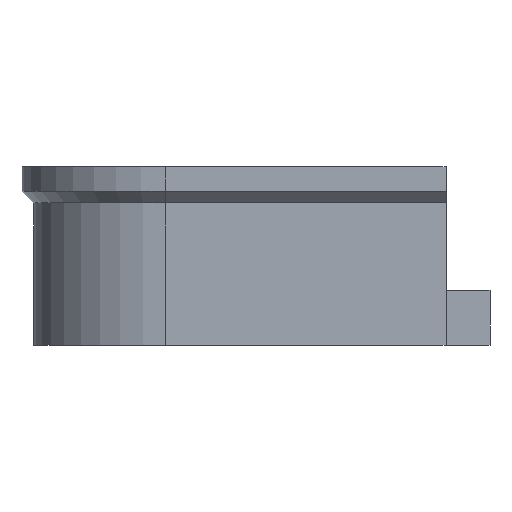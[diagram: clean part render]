
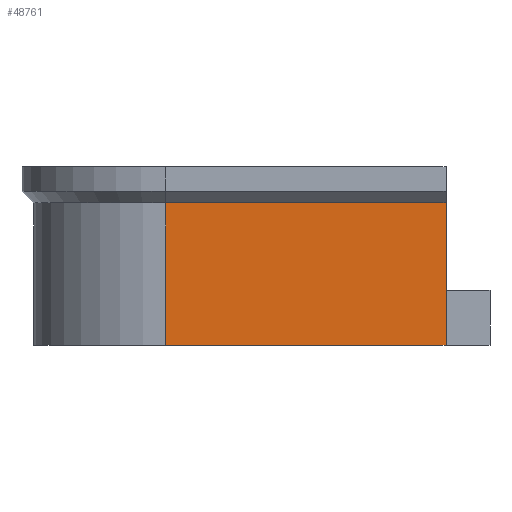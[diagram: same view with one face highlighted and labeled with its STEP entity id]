
A CAD part, left-side view. The second image highlights one B-rep face of the part: STEP entity #48761.
In plain terms, the highlighted planar face has unit normal (-1, 0, 0).
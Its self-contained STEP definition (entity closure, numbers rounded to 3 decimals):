
#32 = PLANE('',#33);
#33 = AXIS2_PLACEMENT_3D('',#34,#35,#36);
#34 = CARTESIAN_POINT('',(-200.,101.,-1.));
#35 = DIRECTION('',(-0.,1.,0.));
#36 = DIRECTION('',(0.,0.,1.));
#839 = PLANE('',#840);
#840 = AXIS2_PLACEMENT_3D('',#841,#842,#843);
#841 = CARTESIAN_POINT('',(0.,-2.673,0.));
#842 = DIRECTION('',(0.,0.,1.));
#843 = DIRECTION('',(1.,0.,-0.));
#936 = VERTEX_POINT('',#937);
#937 = CARTESIAN_POINT('',(-192.,101.,0.));
#958 = EDGE_CURVE('',#959,#936,#961,.T.);
#959 = VERTEX_POINT('',#960);
#960 = CARTESIAN_POINT('',(-192.,101.,25.9));
#961 = SURFACE_CURVE('',#962,(#966,#973),.PCURVE_S1.);
#962 = LINE('',#963,#964);
#963 = CARTESIAN_POINT('',(-192.,101.,-0.5));
#964 = VECTOR('',#965,1.);
#965 = DIRECTION('',(-0.,0.,-1.));
#966 = PCURVE('',#32,#967);
#967 = DEFINITIONAL_REPRESENTATION('',(#968),#972);
#968 = LINE('',#969,#970);
#969 = CARTESIAN_POINT('',(0.5,8.));
#970 = VECTOR('',#971,1.);
#971 = DIRECTION('',(-1.,0.));
#972 = ( GEOMETRIC_REPRESENTATION_CONTEXT(2) 
PARAMETRIC_REPRESENTATION_CONTEXT() REPRESENTATION_CONTEXT('2D SPACE',''
  ) );
#973 = PCURVE('',#974,#979);
#974 = PLANE('',#975);
#975 = AXIS2_PLACEMENT_3D('',#976,#977,#978);
#976 = CARTESIAN_POINT('',(-192.,152.,0.));
#977 = DIRECTION('',(1.,0.,-0.));
#978 = DIRECTION('',(0.,-1.,0.));
#979 = DEFINITIONAL_REPRESENTATION('',(#980),#984);
#980 = LINE('',#981,#982);
#981 = CARTESIAN_POINT('',(51.,0.5));
#982 = VECTOR('',#983,1.);
#983 = DIRECTION('',(-0.,1.));
#984 = ( GEOMETRIC_REPRESENTATION_CONTEXT(2) 
PARAMETRIC_REPRESENTATION_CONTEXT() REPRESENTATION_CONTEXT('2D SPACE',''
  ) );
#1004 = B_SPLINE_SURFACE_WITH_KNOTS('',1,1,(
    (#1005,#1006)
    ,(#1007,#1008
    )),.UNSPECIFIED.,.F.,.F.,.F.,(2,2),(2,2),(0.,330.1),(0.,1.),
  .PIECEWISE_BEZIER_KNOTS.);
#1005 = CARTESIAN_POINT('',(-192.,152.,25.9));
#1006 = CARTESIAN_POINT('',(-194.1,152.,28.));
#1007 = CARTESIAN_POINT('',(-192.,-176.,25.9));
#1008 = CARTESIAN_POINT('',(-194.1,-178.1,28.));
#1022 = VERTEX_POINT('',#1023);
#1023 = CARTESIAN_POINT('',(-192.,152.,25.9));
#1049 = EDGE_CURVE('',#1022,#959,#1050,.T.);
#1050 = SURFACE_CURVE('',#1051,(#1055,#1061),.PCURVE_S1.);
#1051 = LINE('',#1052,#1053);
#1052 = CARTESIAN_POINT('',(-192.,152.,25.9));
#1053 = VECTOR('',#1054,1.);
#1054 = DIRECTION('',(0.,-1.,0.));
#1055 = PCURVE('',#1004,#1056);
#1056 = DEFINITIONAL_REPRESENTATION('',(#1057),#1060);
#1057 = B_SPLINE_CURVE_WITH_KNOTS('',1,(#1058,#1059),.UNSPECIFIED.,.F.,
  .F.,(2,2),(0.,328.),.PIECEWISE_BEZIER_KNOTS.);
#1058 = CARTESIAN_POINT('',(0.,0.));
#1059 = CARTESIAN_POINT('',(330.1,0.));
#1060 = ( GEOMETRIC_REPRESENTATION_CONTEXT(2) 
PARAMETRIC_REPRESENTATION_CONTEXT() REPRESENTATION_CONTEXT('2D SPACE',''
  ) );
#1061 = PCURVE('',#974,#1062);
#1062 = DEFINITIONAL_REPRESENTATION('',(#1063),#1067);
#1063 = LINE('',#1064,#1065);
#1064 = CARTESIAN_POINT('',(0.,-25.9));
#1065 = VECTOR('',#1066,1.);
#1066 = DIRECTION('',(1.,0.));
#1067 = ( GEOMETRIC_REPRESENTATION_CONTEXT(2) 
PARAMETRIC_REPRESENTATION_CONTEXT() REPRESENTATION_CONTEXT('2D SPACE',''
  ) );
#1110 = CYLINDRICAL_SURFACE('',#1111,24.);
#1111 = AXIS2_PLACEMENT_3D('',#1112,#1113,#1114);
#1112 = CARTESIAN_POINT('',(-168.,152.,0.));
#1113 = DIRECTION('',(-0.,-0.,-1.));
#1114 = DIRECTION('',(1.,0.,-0.));
#48716 = VERTEX_POINT('',#48717);
#48717 = CARTESIAN_POINT('',(-192.,152.,0.));
#48739 = EDGE_CURVE('',#48716,#1022,#48740,.T.);
#48740 = SURFACE_CURVE('',#48741,(#48745,#48752),.PCURVE_S1.);
#48741 = LINE('',#48742,#48743);
#48742 = CARTESIAN_POINT('',(-192.,152.,0.));
#48743 = VECTOR('',#48744,1.);
#48744 = DIRECTION('',(0.,0.,1.));
#48745 = PCURVE('',#1110,#48746);
#48746 = DEFINITIONAL_REPRESENTATION('',(#48747),#48751);
#48747 = LINE('',#48748,#48749);
#48748 = CARTESIAN_POINT('',(3.142,0.));
#48749 = VECTOR('',#48750,1.);
#48750 = DIRECTION('',(-0.,-1.));
#48751 = ( GEOMETRIC_REPRESENTATION_CONTEXT(2) 
PARAMETRIC_REPRESENTATION_CONTEXT() REPRESENTATION_CONTEXT('2D SPACE',''
  ) );
#48752 = PCURVE('',#974,#48753);
#48753 = DEFINITIONAL_REPRESENTATION('',(#48754),#48758);
#48754 = LINE('',#48755,#48756);
#48755 = CARTESIAN_POINT('',(0.,0.));
#48756 = VECTOR('',#48757,1.);
#48757 = DIRECTION('',(0.,-1.));
#48758 = ( GEOMETRIC_REPRESENTATION_CONTEXT(2) 
PARAMETRIC_REPRESENTATION_CONTEXT() REPRESENTATION_CONTEXT('2D SPACE',''
  ) );
#48761 = ADVANCED_FACE('',(#48762),#974,.F.);
#48762 = FACE_BOUND('',#48763,.F.);
#48763 = EDGE_LOOP('',(#48764,#48785,#48786,#48787));
#48764 = ORIENTED_EDGE('',*,*,#48765,.F.);
#48765 = EDGE_CURVE('',#48716,#936,#48766,.T.);
#48766 = SURFACE_CURVE('',#48767,(#48771,#48778),.PCURVE_S1.);
#48767 = LINE('',#48768,#48769);
#48768 = CARTESIAN_POINT('',(-192.,152.,0.));
#48769 = VECTOR('',#48770,1.);
#48770 = DIRECTION('',(0.,-1.,0.));
#48771 = PCURVE('',#974,#48772);
#48772 = DEFINITIONAL_REPRESENTATION('',(#48773),#48777);
#48773 = LINE('',#48774,#48775);
#48774 = CARTESIAN_POINT('',(0.,0.));
#48775 = VECTOR('',#48776,1.);
#48776 = DIRECTION('',(1.,0.));
#48777 = ( GEOMETRIC_REPRESENTATION_CONTEXT(2) 
PARAMETRIC_REPRESENTATION_CONTEXT() REPRESENTATION_CONTEXT('2D SPACE',''
  ) );
#48778 = PCURVE('',#839,#48779);
#48779 = DEFINITIONAL_REPRESENTATION('',(#48780),#48784);
#48780 = LINE('',#48781,#48782);
#48781 = CARTESIAN_POINT('',(-192.,154.673));
#48782 = VECTOR('',#48783,1.);
#48783 = DIRECTION('',(0.,-1.));
#48784 = ( GEOMETRIC_REPRESENTATION_CONTEXT(2) 
PARAMETRIC_REPRESENTATION_CONTEXT() REPRESENTATION_CONTEXT('2D SPACE',''
  ) );
#48785 = ORIENTED_EDGE('',*,*,#48739,.T.);
#48786 = ORIENTED_EDGE('',*,*,#1049,.T.);
#48787 = ORIENTED_EDGE('',*,*,#958,.T.);
